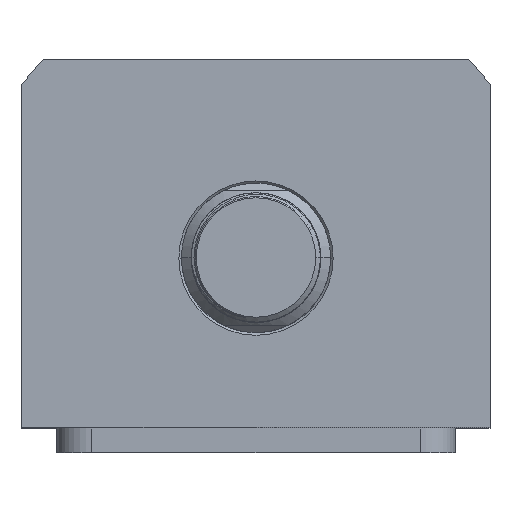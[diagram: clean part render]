
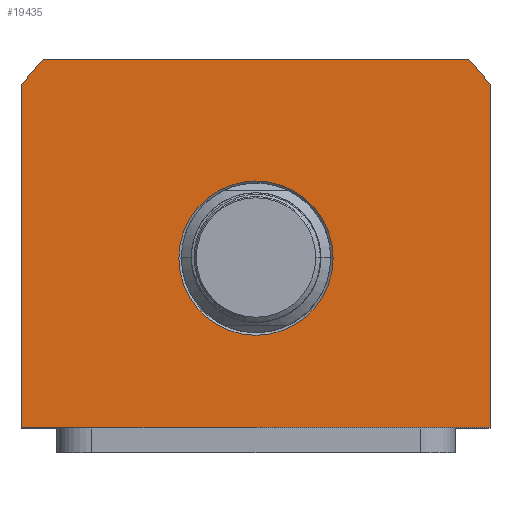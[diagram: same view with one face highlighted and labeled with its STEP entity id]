
A CAD part, top view. The second image highlights one B-rep face of the part: STEP entity #19435.
In plain terms, the highlighted planar face has unit normal (0, 0, 1).
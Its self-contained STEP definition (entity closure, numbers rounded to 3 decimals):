
#352 = VERTEX_POINT ( 'NONE', #17231 ) ;
#618 = LINE ( 'NONE', #11604, #4161 ) ;
#1172 = DIRECTION ( 'NONE',  ( 0., 1., 0. ) ) ;
#1313 = EDGE_CURVE ( 'NONE', #13730, #1491, #9559, .T. ) ;
#1491 = VERTEX_POINT ( 'NONE', #16933 ) ;
#1542 = FACE_OUTER_BOUND ( 'NONE', #10609, .T. ) ;
#1680 = CARTESIAN_POINT ( 'NONE',  ( 42.688, 40., 52.5 ) ) ;
#1972 = DIRECTION ( 'NONE',  ( 0., 0., 1. ) ) ;
#2193 = VERTEX_POINT ( 'NONE', #9240 ) ;
#2286 = ORIENTED_EDGE ( 'NONE', *, *, #17332, .T. ) ;
#3280 = AXIS2_PLACEMENT_3D ( 'NONE', #11910, #15225, #9147 ) ;
#3497 = VECTOR ( 'NONE', #3973, 1000. ) ;
#3812 = VERTEX_POINT ( 'NONE', #5556 ) ;
#3958 = CARTESIAN_POINT ( 'NONE',  ( 0., 0., 52.5 ) ) ;
#3973 = DIRECTION ( 'NONE',  ( 0., -1., 0. ) ) ;
#4061 = AXIS2_PLACEMENT_3D ( 'NONE', #3958, #13110, #19270 ) ;
#4161 = VECTOR ( 'NONE', #13100, 1000. ) ;
#4482 = ORIENTED_EDGE ( 'NONE', *, *, #14474, .T. ) ;
#4486 = CARTESIAN_POINT ( 'NONE',  ( -42.688, 40., 52.5 ) ) ;
#4929 = CIRCLE ( 'NONE', #4061, 15.5 ) ;
#4955 = CARTESIAN_POINT ( 'NONE',  ( 47., -34., 52.5 ) ) ;
#5238 = ORIENTED_EDGE ( 'NONE', *, *, #5747, .T. ) ;
#5516 = CARTESIAN_POINT ( 'NONE',  ( -47., -34., 52.5 ) ) ;
#5556 = CARTESIAN_POINT ( 'NONE',  ( -15.5, 0., 52.5 ) ) ;
#5747 = EDGE_CURVE ( 'NONE', #352, #13730, #14883, .T. ) ;
#5848 = LINE ( 'NONE', #17754, #8502 ) ;
#6277 = AXIS2_PLACEMENT_3D ( 'NONE', #7338, #15068, #18080 ) ;
#6694 = ORIENTED_EDGE ( 'NONE', *, *, #1313, .T. ) ;
#6808 = ORIENTED_EDGE ( 'NONE', *, *, #7485, .T. ) ;
#7338 = CARTESIAN_POINT ( 'NONE',  ( 0., 0., 52.5 ) ) ;
#7403 = PLANE ( 'NONE',  #6277 ) ;
#7485 = EDGE_CURVE ( 'NONE', #13699, #352, #7528, .T. ) ;
#7528 = CIRCLE ( 'NONE', #19328, 58.5 ) ;
#8502 = VECTOR ( 'NONE', #1172, 1000. ) ;
#9147 = DIRECTION ( 'NONE',  ( 1., 0., 0. ) ) ;
#9229 = FACE_BOUND ( 'NONE', #11160, .T. ) ;
#9240 = CARTESIAN_POINT ( 'NONE',  ( 15.5, 0., 52.5 ) ) ;
#9559 = LINE ( 'NONE', #4955, #17621 ) ;
#10143 = ORIENTED_EDGE ( 'NONE', *, *, #12298, .T. ) ;
#10570 = AXIS2_PLACEMENT_3D ( 'NONE', #11169, #1972, #14203 ) ;
#10609 = EDGE_LOOP ( 'NONE', ( #6694, #16275, #2286, #10143, #6808, #5238 ) ) ;
#10703 = DIRECTION ( 'NONE',  ( 0., 0., 1. ) ) ;
#10902 = DIRECTION ( 'NONE',  ( 1., 0., 0. ) ) ;
#10913 = ORIENTED_EDGE ( 'NONE', *, *, #17506, .T. ) ;
#11160 = EDGE_LOOP ( 'NONE', ( #10913, #4482 ) ) ;
#11169 = CARTESIAN_POINT ( 'NONE',  ( 0., 0., 52.5 ) ) ;
#11183 = CIRCLE ( 'NONE', #3280, 15.5 ) ;
#11512 = VERTEX_POINT ( 'NONE', #12437 ) ;
#11604 = CARTESIAN_POINT ( 'NONE',  ( -42.688, 40., 52.5 ) ) ;
#11910 = CARTESIAN_POINT ( 'NONE',  ( 0., 0., 52.5 ) ) ;
#12298 = EDGE_CURVE ( 'NONE', #16174, #13699, #618, .T. ) ;
#12437 = CARTESIAN_POINT ( 'NONE',  ( 47., 34.832, 52.5 ) ) ;
#13100 = DIRECTION ( 'NONE',  ( -1., 0., 0. ) ) ;
#13110 = DIRECTION ( 'NONE',  ( 0., 0., -1. ) ) ;
#13224 = CIRCLE ( 'NONE', #10570, 58.5 ) ;
#13699 = VERTEX_POINT ( 'NONE', #4486 ) ;
#13730 = VERTEX_POINT ( 'NONE', #19715 ) ;
#13865 = CARTESIAN_POINT ( 'NONE',  ( 0., 0., 52.5 ) ) ;
#14203 = DIRECTION ( 'NONE',  ( 1., 0., 0. ) ) ;
#14474 = EDGE_CURVE ( 'NONE', #3812, #2193, #11183, .T. ) ;
#14883 = LINE ( 'NONE', #5516, #3497 ) ;
#15068 = DIRECTION ( 'NONE',  ( 0., 0., 1. ) ) ;
#15225 = DIRECTION ( 'NONE',  ( 0., 0., -1. ) ) ;
#15450 = DIRECTION ( 'NONE',  ( 1., 0., 0. ) ) ;
#16174 = VERTEX_POINT ( 'NONE', #1680 ) ;
#16275 = ORIENTED_EDGE ( 'NONE', *, *, #18883, .T. ) ;
#16933 = CARTESIAN_POINT ( 'NONE',  ( 47., -34., 52.5 ) ) ;
#17231 = CARTESIAN_POINT ( 'NONE',  ( -47., 34.832, 52.5 ) ) ;
#17332 = EDGE_CURVE ( 'NONE', #11512, #16174, #13224, .T. ) ;
#17506 = EDGE_CURVE ( 'NONE', #2193, #3812, #4929, .T. ) ;
#17621 = VECTOR ( 'NONE', #15450, 1000. ) ;
#17754 = CARTESIAN_POINT ( 'NONE',  ( 47., 34.832, 52.5 ) ) ;
#18080 = DIRECTION ( 'NONE',  ( 1., 0., 0. ) ) ;
#18883 = EDGE_CURVE ( 'NONE', #1491, #11512, #5848, .T. ) ;
#19270 = DIRECTION ( 'NONE',  ( 1., 0., 0. ) ) ;
#19328 = AXIS2_PLACEMENT_3D ( 'NONE', #13865, #10703, #10902 ) ;
#19435 = ADVANCED_FACE ( 'NONE', ( #9229, #1542 ), #7403, .T. ) ;
#19715 = CARTESIAN_POINT ( 'NONE',  ( -47., -34., 52.5 ) ) ;
